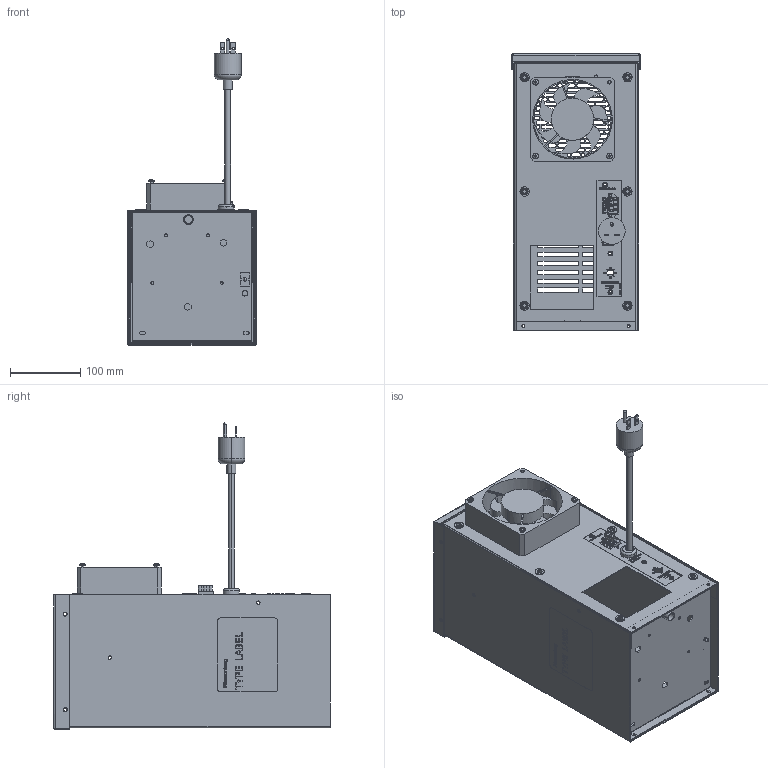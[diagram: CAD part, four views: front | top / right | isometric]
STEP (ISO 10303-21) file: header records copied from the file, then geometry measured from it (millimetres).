
FILE_DESCRIPTION (( 'STEP AP203' ), '1' );
FILE_NAME ('DTS 30x1 (Shoebox).STEP', '2018-03-08T14:24:28', ( '' ), ( '' ), 'SwSTEP 2.0', 'SolidWorks 2017', '' );
FILE_SCHEMA (( 'CONFIG_CONTROL_DESIGN' ));
Length unit declared in the file: millimetre
Products named in the file (19): 025510030_Erdungsfahne 4-fach_Standard; 015080031; 825401000; 085110010_085110010; 80002-008_802004083; 025710109; US-885001001; 80002-014_802005042; DTS 30x1 (Shoebox); 80002-003_802005040; 025600020; 020140030_020140030; 811000002; 80002-010_885000073; 820100023_820100023; 020200376_correct visualization; 80002-001_802004072; 80002-007_802004082; 825416021_025500851 4polig
Assembly tree (27 placements, depth 2):
  DTS 30x1 (Shoebox)
    80002-001_802004072
    025510030_Erdungsfahne 4-fach_Standard
    085110010_085110010
    025710109
    80002-014_802005042
    80002-003_802005040
    020140030_020140030  x6
    80002-010_885000073
    020200376_correct visualization  x3
    825416021_025500851 4polig
    825401000
    025600020
    811000002
    820100023_820100023  x3
    80002-007_802004082
    015080031
    80002-008_802004083
    US-885001001
Bounding box: 182.06 x 392.71 x 434.74 mm (x, y, z)
Volume: 876522.8 mm3; surface area: 937252.9 mm2
Topology: 27 solids, 29 shells, 3936 faces, 10491 edges, 6881 vertices
Faces by surface type: plane 2091, bspline 999, cylinder 701, cone 82, torus 49, sphere 14
Entity records: 163756 total; most frequent: CARTESIAN_POINT 76501, ORIENTED_EDGE 19295, DIRECTION 14142, EDGE_CURVE 9649, VECTOR 6356, LINE 6356, VERTEX_POINT 6354, EDGE_LOOP 4246
